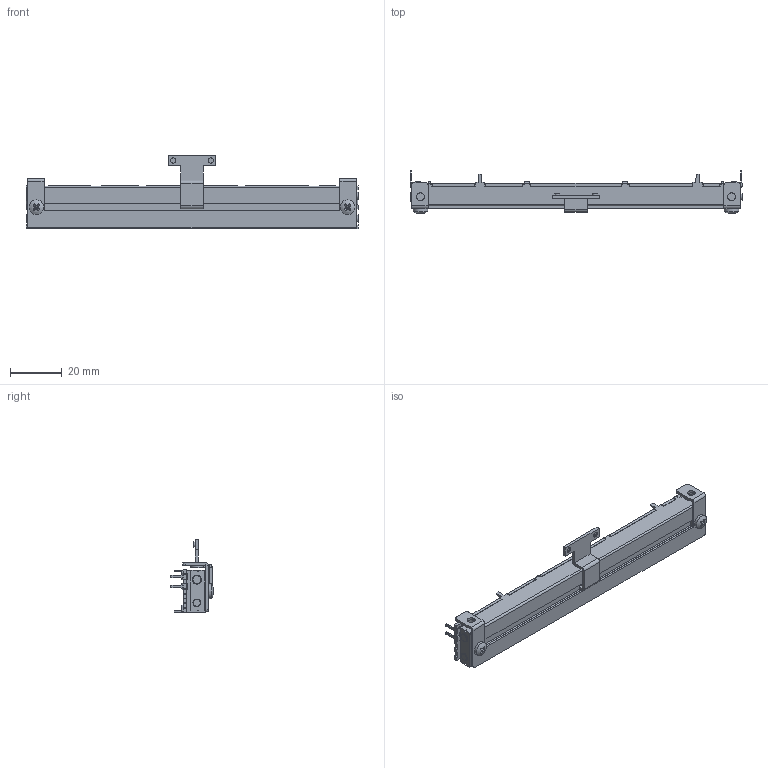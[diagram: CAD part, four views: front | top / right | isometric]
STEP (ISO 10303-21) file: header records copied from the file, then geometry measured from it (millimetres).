
FILE_DESCRIPTION(('FreeCAD Model'),'2;1');
FILE_NAME('Open CASCADE Shape Model','2023-03-16T13:43:46',(''),(''), 'Open CASCADE STEP processor 7.6','FreeCAD','Unknown');
FILE_SCHEMA(('AUTOMOTIVE_DESIGN { 1 0 10303 214 1 1 1 1 }'));
Length unit declared in the file: millimetre
Products named in the file (1): Fusion002013
Bounding box: 128 x 16.65 x 28.25 mm (x, y, z)
Volume: 19055.8 mm3; surface area: 12804.4 mm2
Topology: 6 solids, 8 shells, 618 faces, 1712 edges, 1109 vertices
Faces by surface type: plane 452, cylinder 149, cone 15, sphere 2
Full cylindrical faces by diameter (mm): 0.5 x9, 1.5 x5, 2 x4, 2.5 x2, 3 x11, 3.2 x2, 3.5 x1, 5 x2, 5.6 x2
Entity records: 45184 total; most frequent: CARTESIAN_POINT 9556, DIRECTION 5581, ORIENTED_EDGE 3420, PCURVE 3420, DEFINITIONAL_REPRESENTATION 3420, LINE 3268, VECTOR 3268, EDGE_CURVE 1710
